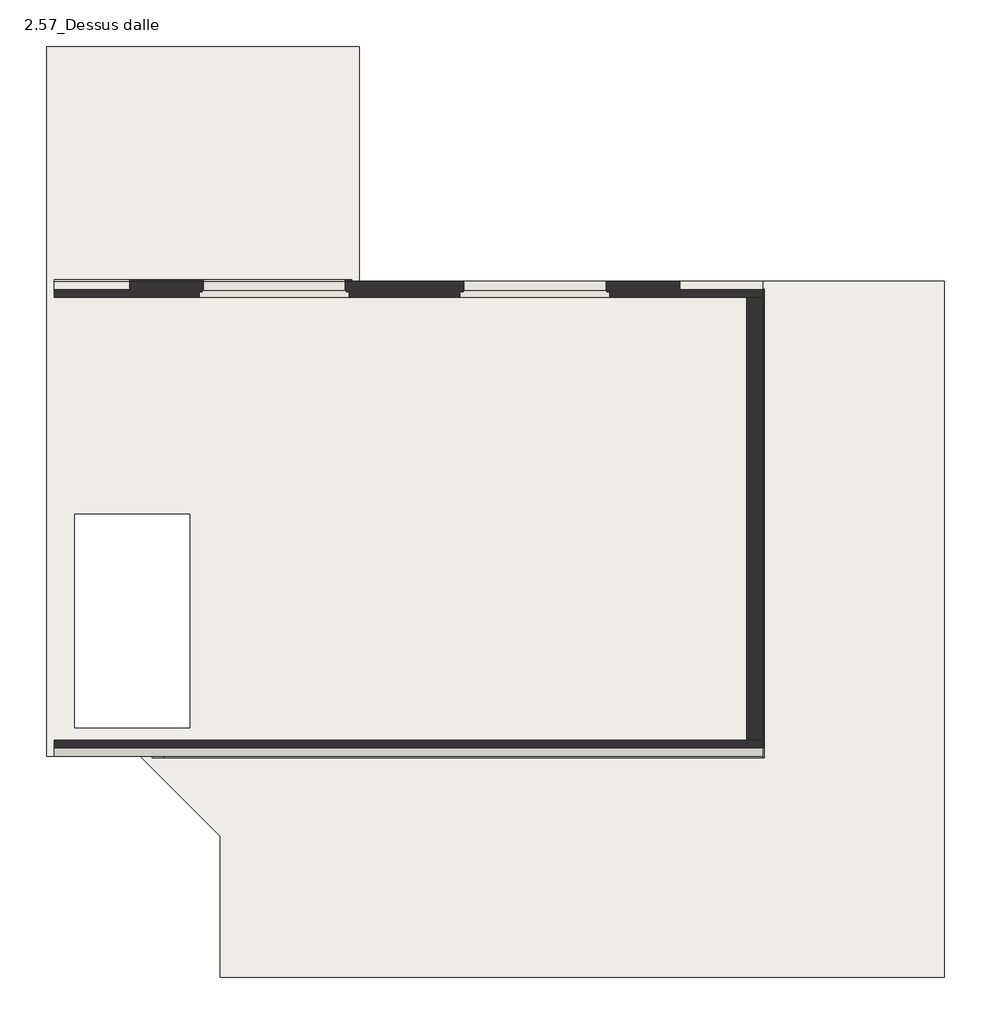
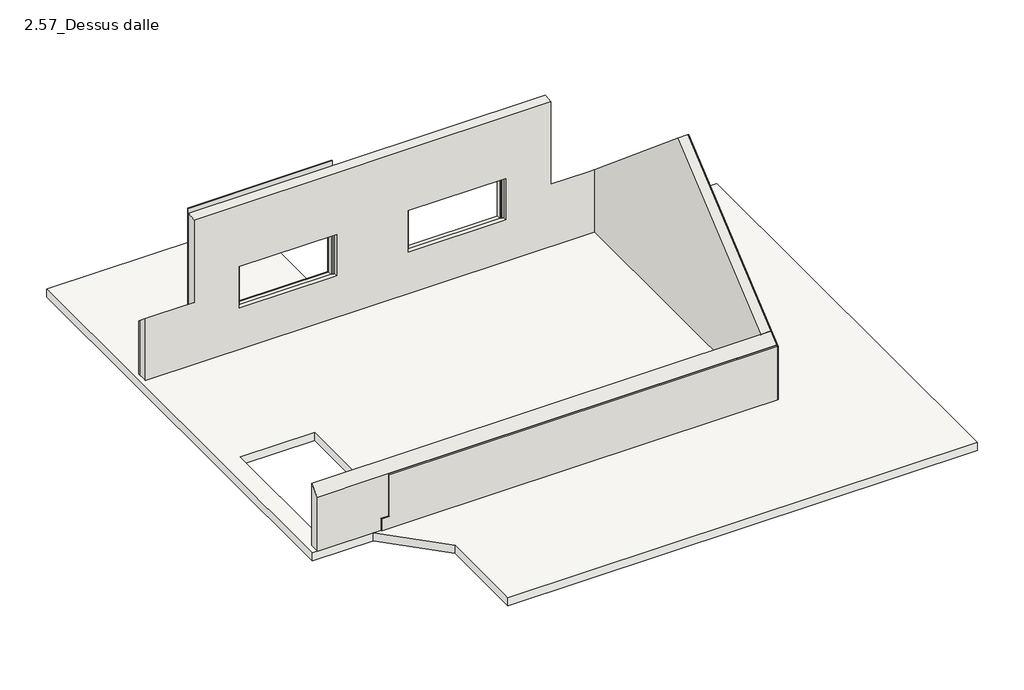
# One storey: 6 walls, 1 slab.
"""IFC4 building model written with IfcOpenShell, lengths in millimetres."""

import ifcopenshell
import ifcopenshell.guid

model = None  # the IFC model being written
_history = None  # IfcOwnerHistory: only IFC2X3 demands one
_inside = {}  # id of a spatial element -> (the spatial element, [elements in it])
_under = {}  # id of a project, library or spatial element -> (it, [spatial elements below it])
_declared = {}  # id of a project -> (the project, [libraries it declares])
_typed = {}  # id of a type object -> (the type object, [elements of that type])
_made_of = {}  # id of a material, layer set ... -> (it, [elements and type objects made of it])


def new_model(schema):
    """Start an empty IFC model of exactly this schema.

    Asked for "IFC4X3", IfcOpenShell would pick the latest addendum, in which some entities
    have other attributes; the version numbers below select the first issue.
    IFC2X3 requires an IfcOwnerHistory on every rooted entity: one is made here for all.
    """
    global model, _history
    if schema == "IFC4X3":
        model = ifcopenshell.file(schema_version=(4, 3, 0, 0))
    else:
        model = ifcopenshell.file(schema=schema)
    _inside.clear()
    _under.clear()
    _declared.clear()
    _typed.clear()
    _made_of.clear()
    _history = None
    if model.schema == "IFC2X3":
        org = make("IfcOrganization", Name="unknown")
        user = make(
            "IfcPersonAndOrganization",
            ThePerson=make("IfcPerson", FamilyName="unknown"),
            TheOrganization=org,
        )
        app = make(
            "IfcApplication",
            ApplicationDeveloper=org,
            Version="unknown",
            ApplicationFullName="unknown",
            ApplicationIdentifier="unknown",
        )
        _history = make(
            "IfcOwnerHistory",
            OwningUser=user,
            OwningApplication=app,
            ChangeAction="ADDED",
            CreationDate=0,
        )
    return model


def make(cls, **values):
    """One entity of the class cls with the attributes given. An attribute that is None is left unset."""
    return model.create_entity(
        cls, **{name: value for name, value in values.items() if value is not None}
    )


def rooted(cls, **values):
    """An entity with a GlobalId (a new one), such as an element, a storey or a relation."""
    return make(cls, GlobalId=ifcopenshell.guid.new(), OwnerHistory=_history, **values)


def si_unit(unit_type, name, prefix=None):
    """IfcSIUnit, for example si_unit("LENGTHUNIT", "METRE", prefix="MILLI")."""
    return make("IfcSIUnit", UnitType=unit_type, Prefix=prefix, Name=name)


def assignment(units):
    """IfcUnitAssignment: the units of a project."""
    return None if units is None else make("IfcUnitAssignment", Units=units)


def point(xyz):
    """IfcCartesianPoint."""
    return None if xyz is None else make("IfcCartesianPoint", Coordinates=xyz)


def direction(xyz):
    """IfcDirection."""
    return None if xyz is None else make("IfcDirection", DirectionRatios=xyz)


def frame(location, z_axis=None, x_axis=None):
    """IfcAxis2Placement3D, a coordinate frame: its origin and axes. An axis left out is left unset."""
    return make(
        "IfcAxis2Placement3D",
        Location=point(location),
        Axis=direction(z_axis),
        RefDirection=direction(x_axis),
    )


def origin():
    """The frame at (0, 0, 0) with its axes left unset."""
    return frame((0.0, 0.0, 0.0))


def place(relative_to, where):
    """IfcLocalPlacement: puts the frame where relative to a parent placement (None: the world)."""
    return make(
        "IfcLocalPlacement", PlacementRelTo=relative_to, RelativePlacement=where
    )


def context(
    kind, dimensions, precision=None, world=None, true_north=None, identifier=None
):
    """IfcGeometricRepresentationContext, for example the 3D "Model" context."""
    return make(
        "IfcGeometricRepresentationContext",
        ContextIdentifier=identifier,
        ContextType=kind,
        CoordinateSpaceDimension=dimensions,
        Precision=precision,
        WorldCoordinateSystem=world,
        TrueNorth=true_north,
    )


def project(units=None, contexts=None):
    """IfcProject with its units and contexts."""
    return rooted(
        "IfcProject",
        Name="project",
        RepresentationContexts=contexts,
        UnitsInContext=assignment(units),
    )


def spatial(cls, under=None, at=None, **own):
    """A site, building, storey or space (cls), placed at a placement, below another one or the project."""
    s = rooted(cls, ObjectPlacement=at, **own)
    if under is not None:
        _under.setdefault(under.id(), (under, []))[1].append(s)
    return s


def polyline(points):
    """IfcPolyline through the points."""
    return make("IfcPolyline", Points=[point(p) for p in points])


def outline(outer, holes=None, kind="AREA"):
    """IfcArbitraryClosedProfileDef: a profile drawn as a closed curve; with holes, ...WithVoids."""
    if holes is None:
        return make("IfcArbitraryClosedProfileDef", ProfileType=kind, OuterCurve=outer)
    return make(
        "IfcArbitraryProfileDefWithVoids",
        ProfileType=kind,
        OuterCurve=outer,
        InnerCurves=holes,
    )


def extrude(swept, where, along, depth):
    """IfcExtrudedAreaSolid: the profile swept, set in the frame where, extruded along a direction by depth."""
    return make(
        "IfcExtrudedAreaSolid",
        SweptArea=swept,
        Position=where,
        ExtrudedDirection=direction(along),
        Depth=depth,
    )


def faces_of(points, faces, orient=None, outer=None):
    """IfcFace entities. A face is a list of loops; a loop is a list of indices into points, from 0.

    orient and outer hold one flag for each loop. By default every Orientation is true, the
    first loop of a face is its IfcFaceOuterBound and the others are IfcFaceBound.
    """
    made = []
    for i, loops in enumerate(faces):
        bounds = []
        for j, loop in enumerate(loops):
            is_outer = j == 0 if outer is None else outer[i][j]
            bounds.append(
                make(
                    "IfcFaceOuterBound" if is_outer else "IfcFaceBound",
                    Bound=make("IfcPolyLoop", Polygon=[points[k] for k in loop]),
                    Orientation=True if orient is None else orient[i][j],
                )
            )
        made.append(make("IfcFace", Bounds=bounds))
    return made


def faceted_brep(points, faces, orient=None, outer=None, voids=None):
    """IfcFacetedBrep: a solid bounded by flat faces; with voids (closed shells), ...WithVoids."""
    shared = [point(p) for p in points]
    hull = make("IfcClosedShell", CfsFaces=faces_of(shared, faces, orient, outer))
    if voids is None:
        return make("IfcFacetedBrep", Outer=hull)
    return make(
        "IfcFacetedBrepWithVoids",
        Outer=hull,
        Voids=[
            make(cls, CfsFaces=faces_of(shared, fs, o, b)) for cls, fs, o, b in voids
        ],
    )


def shape(context_of_items, identifier, shape_type, items):
    """IfcShapeRepresentation: the items that make up one representation, for example the "Body"."""
    return make(
        "IfcShapeRepresentation",
        ContextOfItems=context_of_items,
        RepresentationIdentifier=identifier,
        RepresentationType=shape_type,
        Items=items,
    )


def made_of(thing, what):
    """Note that an element or type object is made of a material, layer set ...; save() writes the relation."""
    if what is not None:
        _made_of.setdefault(what.id(), (what, []))[1].append(thing)
    return thing


def element(
    cls,
    number,
    at=None,
    inside=None,
    cuts=None,
    type_object=None,
    material=None,
    context=None,
    identifier="Body",
    shape_type=None,
    held_by="IfcProductDefinitionShape",
    body=None,
    shapes=None,
    **own,
):
    """One element of the class cls, such as IfcWall. Its Tag is "e" and its number.

    at: its placement. inside: the storey or other place that contains it. cuts: it is an
    opening in that element (IfcRelVoidsElement). A single representation is given by context,
    identifier, shape_type and body (its items); several are given by shapes. held_by: the class
    of the entity that holds the representations. save() writes the other relations.
    """
    e = rooted(cls, Tag="e%d" % number, ObjectPlacement=at, **own)
    if body is not None:
        shapes = [shape(context, identifier, shape_type, body)]
    if shapes is not None:
        e.Representation = make(held_by, Representations=shapes)
    if inside is not None:
        _inside.setdefault(inside.id(), (inside, []))[1].append(e)
    if cuts is not None:
        rooted(
            "IfcRelVoidsElement", RelatingBuildingElement=cuts, RelatedOpeningElement=e
        )
    if type_object is not None:
        _typed.setdefault(type_object.id(), (type_object, []))[1].append(e)
    return made_of(e, material)


def aggregate(whole, parts):
    """IfcRelAggregates: a whole, such as a stair, and the parts it consists of."""
    return rooted("IfcRelAggregates", RelatingObject=whole, RelatedObjects=parts)


def save(model, path):
    """Write the relations noted so far, then the file.

    IfcRelAggregates (storeys below a building ...), IfcRelContainedInSpatialStructure (elements
    in a storey), IfcRelDefinesByType, IfcRelAssociatesMaterial and IfcRelDeclares: one each for
    every whole, place, type object, material and project.
    """
    for whole, parts in _under.values():
        aggregate(whole, parts)
    for where, things in _inside.values():
        rooted(
            "IfcRelContainedInSpatialStructure",
            RelatedElements=things,
            RelatingStructure=where,
        )
    for kind, things in _typed.values():
        rooted("IfcRelDefinesByType", RelatedObjects=things, RelatingType=kind)
    for what, things in _made_of.values():
        rooted("IfcRelAssociatesMaterial", RelatedObjects=things, RelatingMaterial=what)
    for by, libraries in _declared.values():
        rooted("IfcRelDeclares", RelatingContext=by, RelatedDefinitions=libraries)
    model.write(path)


model = new_model("IFC4")

# Units and contexts
model_context = context("Model", 3, world=origin())
ifc_project = project(units=[si_unit("LENGTHUNIT", "METRE", prefix="MILLI")], contexts=[model_context])

# Site, building, storey
site = spatial("IfcSite", under=ifc_project)
building = spatial("IfcBuilding", under=site)
storey = spatial("IfcBuildingStorey", under=building, Name="2.57_Dessus dalle", Elevation=2570.0)

# Slab
placement = place(None, origin())
element("IfcSlab", 1, ObjectType="Plancher 12+4", at=placement, inside=storey, context=model_context, shape_type="SweptSolid", body=[
    extrude(outline(polyline([(-13921.7726031, 10189.9231713), (-13921.7726031, 7219.9231713), (-6521.7726031, 7219.9231713), (-6521.7726031, -1590.0768287), (-15681.7726031, -1590.0768287), (-15681.7726031, 198.2074425), (-16693.4883319, 1209.9231713), (-17881.7726031, 1209.9231713), (-17881.7726031, 10189.9231713), (-13921.7726031, 10189.9231713)]), holes=[polyline([(-17521.7726031, 1569.9231713), (-16071.7726031, 1569.9231713), (-16071.7726031, 4269.9231713), (-17521.7726031, 4269.9231713), (-17521.7726031, 1569.9231713)])]), frame((0.0, 0.0, 2410.0), z_axis=(0.0, 0.0, 1.0), x_axis=(1.0, 0.0, 0.0)), (0.0, 0.0, 1.0), 160.0),
])

# Walls
element("IfcWall", 2, ObjectType="Enduit 2", at=placement, inside=storey, context=model_context, shape_type="Brep", body=[
    faceted_brep([(-8821.7726031, 7119.9231713, 2570.0), (-8821.7726031, 1209.9231713, 2570.0), (-8821.7726031, 1189.9231713, 2570.0), (-8821.7726031, 1189.9231713, 3670.5379336), (-8821.7726031, 1209.9231713, 3687.3199262), (-8821.7726031, 4214.9231713, 6208.8143179), (-8821.7726031, 7119.9231713, 3771.2298894), (-8821.7726031, 7119.9231713, 2820.0), (-8801.7726031, 7119.9231713, 2570.0), (-8801.7726031, 7119.9231713, 2820.0), (-8801.7726031, 7119.9231713, 3771.2298894), (-8801.7726031, 4214.9231713, 6208.8143179), (-8801.7726031, 1189.9231713, 3670.5379336), (-8801.7726031, 1189.9231713, 2570.0)], [[[0, 1, 2, 3, 4, 5, 6, 7]], [[8, 9, 10, 11, 12, 13]], [[2, 1, 0, 8, 13]], [[0, 7, 6, 10, 9, 8]], [[3, 2, 13, 12]], [[6, 5, 11, 10]], [[5, 4, 3, 12, 11]]]),
])
element("IfcWall", 3, ObjectType="Enduit 2", at=placement, inside=storey, context=model_context, shape_type="Brep", body=[
    faceted_brep([(-8821.7726031, 1209.9231713, 2570.0), (-16542.0669757, 1209.9231713, 2570.0), (-16542.0669757, 1209.9231713, 2820.0), (-16390.6456194, 1209.9231713, 2820.0), (-16390.6456194, 1209.9231713, 3687.3199262), (-8821.7726031, 1209.9231713, 3687.3199262), (-16542.0669757, 1189.9231713, 2570.0), (-8821.7726031, 1189.9231713, 2570.0), (-8821.7726031, 1189.9231713, 3670.5379336), (-16390.6456194, 1189.9231713, 3670.5379336), (-16390.6456194, 1189.9231713, 2820.0), (-16542.0669757, 1189.9231713, 2820.0)], [[[0, 1, 2, 3, 4, 5]], [[6, 7, 8, 9, 10, 11]], [[1, 0, 7, 6]], [[1, 6, 11, 2]], [[0, 5, 8, 7]], [[8, 5, 4, 9]], [[10, 3, 2, 11]], [[3, 10, 9, 4]]]),
])
element("IfcWall", 4, ObjectType="Enduit 2", at=placement, inside=storey, context=model_context, shape_type="Brep", body=[
    faceted_brep([(-17781.7726031, 7219.9231713, 2570.0), (-14021.7726031, 7219.9231713, 2570.0), (-14021.7726031, 7219.9231713, 2820.0), (-14021.7726031, 7219.9231713, 5569.7323124), (-14021.7726031, 7219.9231713, 5670.0), (-16831.7726031, 7219.9231713, 5670.0), (-16831.7726031, 7219.9231713, 5569.7323124), (-16831.7726031, 7219.9231713, 3687.3199262), (-17781.7726031, 7219.9231713, 3687.3199262), (-17781.7726031, 7219.9231713, 2820.0), (-15901.7726031, 7219.9231713, 3402.3874918), (-15901.7726031, 7219.9231713, 4230.0), (-14101.7726031, 7219.9231713, 4230.0), (-14101.7726031, 7219.9231713, 3402.3874918), (-14021.7726031, 7239.9231713, 2570.0), (-17781.7726031, 7239.9231713, 2570.0), (-17781.7726031, 7239.9231713, 2820.0), (-17781.7726031, 7239.9231713, 3670.5379336), (-16831.7726031, 7239.9231713, 3670.5379336), (-16831.7726031, 7239.9231713, 5670.0), (-14021.7726031, 7239.9231713, 5670.0), (-14021.7726031, 7239.9231713, 2820.0), (-15901.7726031, 7239.9231713, 4230.0), (-15901.7726031, 7239.9231713, 3400.2854071), (-14101.7726031, 7239.9231713, 3400.2854071), (-14101.7726031, 7239.9231713, 4230.0), (-14021.7726031, 7220.2592048, 5670.0)], [[[0, 1, 2, 3, 4, 5, 6, 7, 8, 9], [10, 11, 12, 13]], [[14, 15, 16, 17, 18, 19, 20, 21], [22, 23, 24, 25]], [[1, 0, 15, 14]], [[4, 3, 2, 1, 14, 21, 20, 26]], [[0, 9, 8, 17, 16, 15]], [[4, 26, 20, 19, 5]], [[5, 19, 18, 7, 6]], [[8, 7, 18, 17]], [[10, 23, 22, 11]], [[24, 13, 12, 25]], [[11, 22, 25, 12]], [[23, 10, 13, 24]]]),
])
element("IfcWall", 5, ObjectType="Mur 20", at=placement, inside=storey, context=model_context, shape_type="Brep", body=[
    faceted_brep([(-8821.7726031, 1409.9231713, 2570.0), (-9021.7726031, 1409.9231713, 2570.0), (-17781.7726031, 1409.9231713, 2570.0), (-17781.7726031, 1409.9231713, 3855.1398525), (-9021.7726031, 1409.9231713, 3855.1398525), (-8821.7726031, 1409.9231713, 3855.1398525), (-8821.7726031, 1209.9231713, 2570.0), (-8821.7726031, 1209.9231713, 3687.3199262), (-16390.6456194, 1209.9231713, 3687.3199262), (-16710.6456194, 1209.9231713, 3687.3199262), (-17781.7726031, 1209.9231713, 3687.3199262), (-17781.7726031, 1209.9231713, 2570.0)], [[[0, 1, 2, 3, 4, 5]], [[6, 7, 8, 9, 10, 11]], [[2, 1, 0, 6, 11]], [[3, 2, 11, 10]], [[0, 5, 7, 6]], [[5, 4, 3, 10, 9, 8, 7]]]),
])
element("IfcWall", 6, ObjectType="Mur 20", at=placement, inside=storey, context=model_context, shape_type="Brep", body=[
    faceted_brep([(-8821.7726031, 7219.9231713, 2570.0), (-14021.7726031, 7219.9231713, 2570.0), (-17781.7726031, 7219.9231713, 2570.0), (-17781.7726031, 7219.9231713, 3687.3199262), (-16831.7726031, 7219.9231713, 3687.3199262), (-16831.7726031, 7219.9231713, 5569.7323124), (-14021.7726031, 7219.9231713, 5569.7323124), (-13921.7726031, 7219.9231713, 5569.7323124), (-9871.7726031, 7219.9231713, 5569.7323124), (-9871.7726031, 7219.9231713, 3687.3199262), (-8821.7726031, 7219.9231713, 3687.3199262), (-8821.7726031, 7219.9231713, 2820.0), (-12601.7726031, 7219.9231713, 4230.0), (-12601.7726031, 7219.9231713, 3402.3874918), (-10801.7726031, 7219.9231713, 3402.3874918), (-10801.7726031, 7219.9231713, 4230.0), (-15901.7726031, 7219.9231713, 4230.0), (-15901.7726031, 7219.9231713, 3402.3874918), (-14101.7726031, 7219.9231713, 3402.3874918), (-14101.7726031, 7219.9231713, 4230.0), (-17781.7726031, 7019.9231713, 2570.0), (-9021.7726031, 7019.9231713, 2570.0), (-8921.7726031, 7019.9231713, 2570.0), (-8821.7726031, 7019.9231713, 2570.0), (-8821.7726031, 7019.9231713, 2820.0), (-8821.7726031, 7019.9231713, 3855.1398525), (-9021.7726031, 7019.9231713, 3855.1398525), (-9181.7726031, 7019.9231713, 3855.1398525), (-9871.7726031, 7019.9231713, 3855.1398525), (-9871.7726031, 7019.9231713, 5030.0), (-9871.7726031, 7019.9231713, 5555.74695), (-16831.7726031, 7019.9231713, 5555.74695), (-16831.7726031, 7019.9231713, 5030.0), (-16831.7726031, 7019.9231713, 3855.1398525), (-17521.7726031, 7019.9231713, 3855.1398525), (-17781.7726031, 7019.9231713, 3855.1398525), (-10801.7726031, 7019.9231713, 3430.0), (-12601.7726031, 7019.9231713, 3430.0), (-12651.7726031, 7019.9231713, 3430.0), (-12651.7726031, 7019.9231713, 4280.0), (-10751.7726031, 7019.9231713, 4280.0), (-10751.7726031, 7019.9231713, 3430.0), (-14101.7726031, 7019.9231713, 3430.0), (-15901.7726031, 7019.9231713, 3430.0), (-15951.7726031, 7019.9231713, 3430.0), (-15951.7726031, 7019.9231713, 4280.0), (-14051.7726031, 7019.9231713, 4280.0), (-14051.7726031, 7019.9231713, 3430.0), (-8821.7726031, 7119.9231713, 3771.2298894), (-12601.7726031, 7099.9231713, 3430.0), (-12601.7726031, 7099.9231713, 3415.0), (-12601.7726031, 7119.9231713, 4230.0), (-12601.7726031, 7119.9231713, 3430.0), (-10801.7726031, 7099.9231713, 3415.0), (-10801.7726031, 7099.9231713, 3430.0), (-10801.7726031, 7119.9231713, 3430.0), (-10801.7726031, 7119.9231713, 4230.0), (-12611.7726031, 7119.9231713, 3430.0), (-12611.7726031, 7089.9231713, 3430.0), (-12651.7726031, 7089.9231713, 3430.0), (-10751.7726031, 7089.9231713, 3430.0), (-10791.7726031, 7089.9231713, 3430.0), (-10791.7726031, 7119.9231713, 3430.0), (-12651.7726031, 7089.9231713, 4280.0), (-10751.7726031, 7089.9231713, 4280.0), (-12611.7726031, 7089.9231713, 4240.0), (-10791.7726031, 7089.9231713, 4240.0), (-12611.7726031, 7119.9231713, 4240.0), (-10791.7726031, 7119.9231713, 4240.0), (-15901.7726031, 7099.9231713, 3430.0), (-15901.7726031, 7099.9231713, 3415.0), (-15901.7726031, 7119.9231713, 4230.0), (-15901.7726031, 7119.9231713, 3430.0), (-14101.7726031, 7099.9231713, 3415.0), (-14101.7726031, 7099.9231713, 3430.0), (-14101.7726031, 7119.9231713, 3430.0), (-14101.7726031, 7119.9231713, 4230.0), (-15911.7726031, 7119.9231713, 3430.0), (-15911.7726031, 7089.9231713, 3430.0), (-15951.7726031, 7089.9231713, 3430.0), (-14051.7726031, 7089.9231713, 3430.0), (-14091.7726031, 7089.9231713, 3430.0), (-14091.7726031, 7119.9231713, 3430.0), (-15951.7726031, 7089.9231713, 4280.0), (-14051.7726031, 7089.9231713, 4280.0), (-15911.7726031, 7089.9231713, 4240.0), (-14091.7726031, 7089.9231713, 4240.0), (-15911.7726031, 7119.9231713, 4240.0), (-14091.7726031, 7119.9231713, 4240.0)], [[[0, 1, 2, 3, 4, 5, 6, 7, 8, 9, 10, 11], [12, 13, 14, 15], [16, 17, 18, 19]], [[20, 21, 22, 23, 24, 25, 26, 27, 28, 29, 30, 31, 32, 33, 34, 35], [36, 37, 38, 39, 40, 41], [42, 43, 44, 45, 46, 47]], [[2, 1, 0, 23, 22, 21, 20]], [[3, 2, 20, 35]], [[8, 7, 6, 5, 31, 30]], [[5, 4, 33, 32, 31]], [[30, 29, 28, 9, 8]], [[10, 9, 28, 27, 26, 25, 48]], [[4, 3, 35, 34, 33]], [[0, 11, 10, 48, 25, 24, 23]], [[49, 50, 13, 12, 51, 52]], [[53, 54, 55, 56, 15, 14]], [[49, 52, 57, 58, 59, 38, 37, 36, 41, 60, 61, 62, 55, 54]], [[56, 51, 12, 15]], [[50, 53, 14, 13]], [[50, 49, 54, 53]], [[38, 59, 63, 39]], [[61, 60, 64, 63, 59, 58, 65, 66]], [[58, 57, 67, 65]], [[52, 51, 56, 55, 62, 68, 67, 57]], [[39, 63, 64, 40]], [[66, 65, 67, 68]], [[60, 41, 40, 64]], [[62, 61, 66, 68]], [[69, 70, 17, 16, 71, 72]], [[73, 74, 75, 76, 19, 18]], [[69, 72, 77, 78, 79, 44, 43, 42, 47, 80, 81, 82, 75, 74]], [[76, 71, 16, 19]], [[70, 73, 18, 17]], [[70, 69, 74, 73]], [[44, 79, 83, 45]], [[81, 80, 84, 83, 79, 78, 85, 86]], [[78, 77, 87, 85]], [[72, 71, 76, 75, 82, 88, 87, 77]], [[45, 83, 84, 46]], [[86, 85, 87, 88]], [[80, 47, 46, 84]], [[82, 81, 86, 88]]]),
])
element("IfcWall", 7, ObjectType="Mur 20", at=placement, inside=storey, context=model_context, shape_type="Brep", body=[
    faceted_brep([(-9021.7726031, 7019.9231713, 2570.0), (-9021.7726031, 1409.9231713, 2570.0), (-9021.7726031, 1409.9231713, 3855.1398525), (-9021.7726031, 4214.9231713, 6208.8143179), (-9021.7726031, 7019.9231713, 3855.1398525), (-9021.7726031, 7019.9231713, 2820.0), (-8821.7726031, 7219.9231713, 2570.0), (-8821.7726031, 7219.9231713, 2820.0), (-8821.7726031, 7019.9231713, 2820.0), (-8821.7726031, 7019.9231713, 3855.1398525), (-8821.7726031, 4214.9231713, 6208.8143179), (-8821.7726031, 1409.9231713, 3855.1398525), (-8821.7726031, 1409.9231713, 2570.0), (-8921.7726031, 7019.9231713, 2570.0), (-8921.7726031, 7219.9231713, 2570.0), (-8921.7726031, 7019.9231713, 2820.0), (-8921.7726031, 7219.9231713, 2820.0)], [[[0, 1, 2, 3, 4, 5]], [[6, 7, 8, 9, 10, 11, 12]], [[1, 0, 13, 14, 6, 12]], [[2, 1, 12, 11]], [[4, 3, 10, 9]], [[3, 2, 11, 10]], [[15, 8, 7, 16]], [[0, 5, 15, 13]], [[5, 4, 9, 8, 15]], [[15, 16, 14, 13]], [[16, 7, 6, 14]]]),
])

save(model, "model.ifc")
